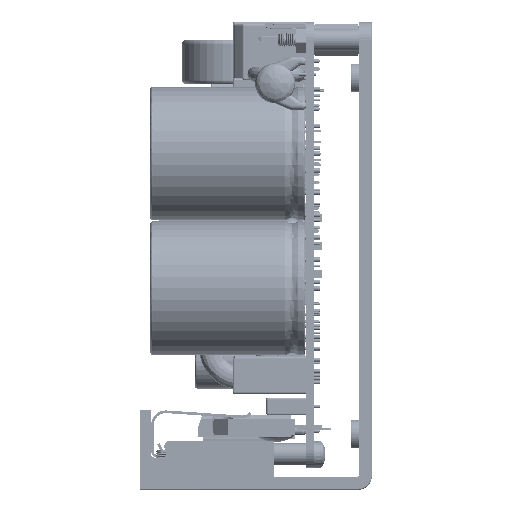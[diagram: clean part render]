
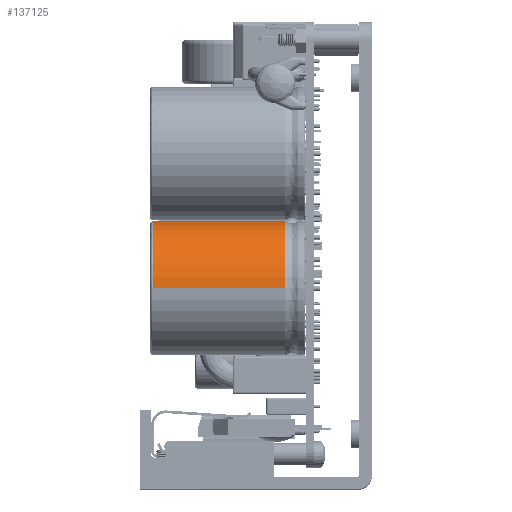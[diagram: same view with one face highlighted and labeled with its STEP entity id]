
A CAD part, left-side view. The second image highlights one B-rep face of the part: STEP entity #137125.
In plain terms, the highlighted cylindrical face has radius 15 mm (diameter 30 mm), a partial arc.
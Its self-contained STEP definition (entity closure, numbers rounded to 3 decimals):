
#8804 = ORIENTED_EDGE ( 'NONE', *, *, #75040, .T. ) ;
#13554 = DIRECTION ( 'NONE',  ( 1., 0., 0. ) ) ;
#18226 = ORIENTED_EDGE ( 'NONE', *, *, #156859, .F. ) ;
#27392 = CARTESIAN_POINT ( 'NONE',  ( 16., 59.75, 4.8 ) ) ;
#32253 = AXIS2_PLACEMENT_3D ( 'NONE', #134737, #80154, #13554 ) ;
#34533 = CARTESIAN_POINT ( 'NONE',  ( 1., 59.75, 34.5 ) ) ;
#39715 = DIRECTION ( 'NONE',  ( 1., 0., 0. ) ) ;
#43688 = EDGE_LOOP ( 'NONE', ( #71763, #63272, #8804, #18226 ) ) ;
#54443 = VERTEX_POINT ( 'NONE', #163869 ) ;
#55811 = DIRECTION ( 'NONE',  ( 0., 0., 1. ) ) ;
#63272 = ORIENTED_EDGE ( 'NONE', *, *, #99894, .T. ) ;
#64416 = EDGE_CURVE ( 'NONE', #65691, #118645, #98949, .T. ) ;
#65691 = VERTEX_POINT ( 'NONE', #173947 ) ;
#70261 = DIRECTION ( 'NONE',  ( 0., 0., -1. ) ) ;
#71763 = ORIENTED_EDGE ( 'NONE', *, *, #64416, .T. ) ;
#75040 = EDGE_CURVE ( 'NONE', #54443, #84001, #175324, .T. ) ;
#80154 = DIRECTION ( 'NONE',  ( 0., 0., -1. ) ) ;
#84001 = VERTEX_POINT ( 'NONE', #95337 ) ;
#86315 = AXIS2_PLACEMENT_3D ( 'NONE', #27392, #55811, #137625 ) ;
#95337 = CARTESIAN_POINT ( 'NONE',  ( 31., 59.75, 4.8 ) ) ;
#98949 = CIRCLE ( 'NONE', #162093, 15. ) ;
#99894 = EDGE_CURVE ( 'NONE', #118645, #54443, #124241, .T. ) ;
#103899 = DIRECTION ( 'NONE',  ( 0., 0., -1. ) ) ;
#118645 = VERTEX_POINT ( 'NONE', #34533 ) ;
#124241 = LINE ( 'NONE', #175583, #163364 ) ;
#134659 = FACE_OUTER_BOUND ( 'NONE', #43688, .T. ) ;
#134737 = CARTESIAN_POINT ( 'NONE',  ( 16., 59.75, 35. ) ) ;
#137125 = ADVANCED_FACE ( 'NONE', ( #134659 ), #164991, .T. ) ;
#137625 = DIRECTION ( 'NONE',  ( 1., 0., 0. ) ) ;
#153928 = CARTESIAN_POINT ( 'NONE',  ( 31., 59.75, 35. ) ) ;
#156859 = EDGE_CURVE ( 'NONE', #65691, #84001, #175076, .T. ) ;
#159809 = VECTOR ( 'NONE', #70261, 1000. ) ;
#161695 = DIRECTION ( 'NONE',  ( 0., 0., -1. ) ) ;
#162093 = AXIS2_PLACEMENT_3D ( 'NONE', #173076, #103899, #39715 ) ;
#163364 = VECTOR ( 'NONE', #161695, 1000. ) ;
#163869 = CARTESIAN_POINT ( 'NONE',  ( 1., 59.75, 4.8 ) ) ;
#164991 = CYLINDRICAL_SURFACE ( 'NONE', #32253, 15. ) ;
#173076 = CARTESIAN_POINT ( 'NONE',  ( 16., 59.75, 34.5 ) ) ;
#173947 = CARTESIAN_POINT ( 'NONE',  ( 31., 59.75, 34.5 ) ) ;
#175076 = LINE ( 'NONE', #153928, #159809 ) ;
#175324 = CIRCLE ( 'NONE', #86315, 15. ) ;
#175583 = CARTESIAN_POINT ( 'NONE',  ( 1., 59.75, 35. ) ) ;
